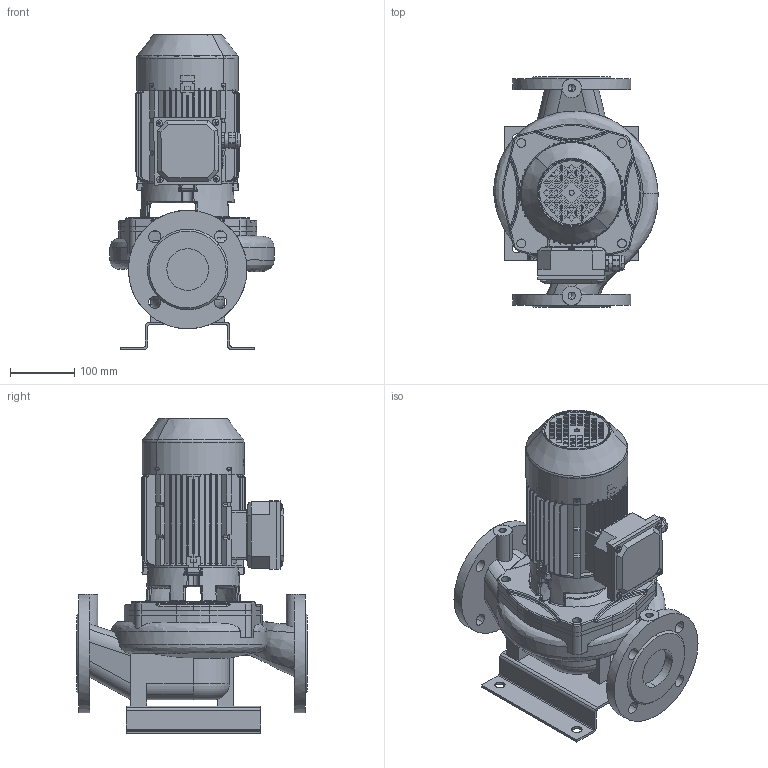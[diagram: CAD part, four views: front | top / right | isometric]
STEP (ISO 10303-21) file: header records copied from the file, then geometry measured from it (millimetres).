
FILE_DESCRIPTION(('STEP AP214'),'1');
FILE_NAME('export.stp','2018-05-28T11:38:29',(' '),(' '),'Spatial InterOp 3D',' ',' ');
FILE_SCHEMA(('AUTOMOTIVE_DESIGN { 1 0 10303 214 1 1 1 1 }'));
Length unit declared in the file: millimetre
Products named in the file (23): W_ALP10664; V_JALKA35973; V_PPAL10651066; V_TLL65AB80A1102; W_ALP10664750KP80; 160022; 160003; V_MKP80-2_F19; 160141; 160137; 160138; 160139; 160140; Koura_Ale_M5; Plug_Blind_M20; Sealing_Plug_M20; DIN_7985-M5X8; DIN_7985-M5X12; 480032; 480031___; 480034; 480033___; 160133
Assembly tree (25 placements, depth 4):
  W_ALP10664750KP80
    W_ALP10664
      V_JALKA35973
      V_PPAL10651066
      V_TLL65AB80A1102
    V_MKP80-2_F19
      160022
        160003
      160141
        160137
        160138
        160139
        160140
        Koura_Ale_M5
        Plug_Blind_M20
        Sealing_Plug_M20
        DIN_7985-M5X8
        DIN_7985-M5X12  x4
      480032
        480031___
      480034
        480033___
      160133
Bounding box: 256.51 x 360 x 492.11 mm (x, y, z)
Volume: 6605297.8 mm3; surface area: 1254549.2 mm2
Topology: 19 solids, 19 shells, 2840 faces, 7432 edges, 4620 vertices
Faces by surface type: plane 1075, cylinder 917, bspline 356, torus 281, cone 147, sphere 64
Entity records: 112387 total; most frequent: CARTESIAN_POINT 42360, ORIENTED_EDGE 14432, DIRECTION 13185, EDGE_CURVE 7216, AXIS2_PLACEMENT_3D 5002, VERTEX_POINT 4524, LINE 3181, VECTOR 3181
